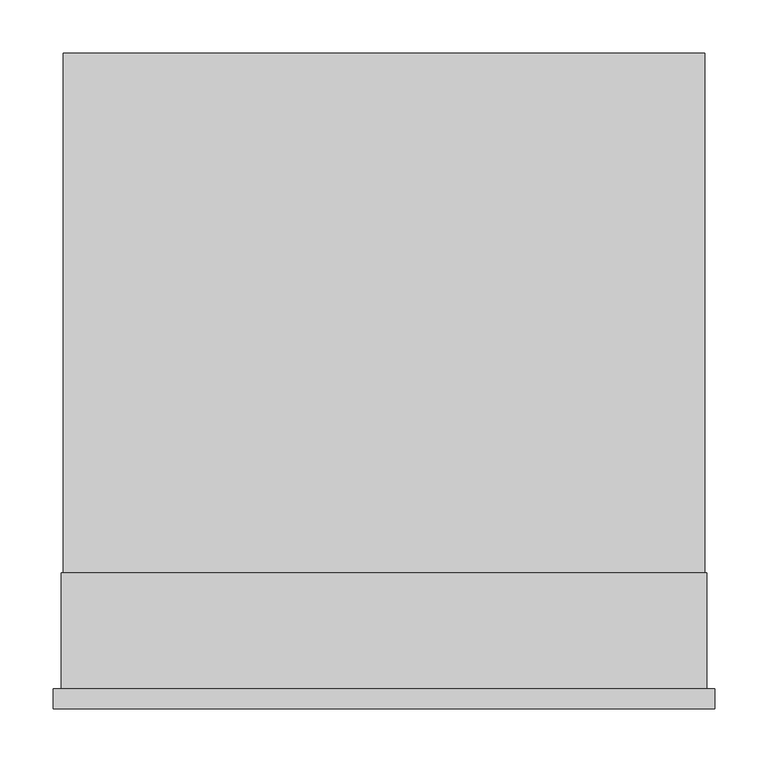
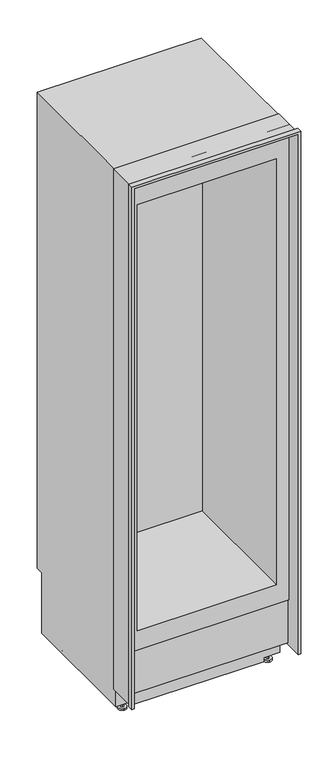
"""IFC4 building model written with IfcOpenShell, lengths in millimetres: proxy geometry, 11503640_USA_KWT2612SF : 36261215_USA_11503640_KWT2612SF."""

from ifc_helpers import new_model, si_unit, frame, origin, place, context, project, spatial, circle_curve, faceted_brep, source, transform, mapped, element, save
from ifc_brep_helpers import plane_surface, cylinder_surface, advanced_brep


def specialty_equipment_23673d5d(model_context):
    return source(origin(), model_context, "Body", "SolidModel", [
        advanced_brep(
        [(-267.5, 160.0, 0.0), (-267.5, 130.0, 0.0), (-267.5, 160.0, 7.0), (-267.5, 130.0, 7.0), (-267.5, 149.7, 7.0), (-267.5, 140.3, 7.0), (-267.5, 149.7, 28.0), (-267.5, 140.3, 28.0)],
        [
            (0, 1, circle_curve(frame((-267.5, 145.0, 0.0), z_axis=(0.0, 0.0, -1.0), x_axis=(1.0, 0.0, 0.0)), 15.0)),
            (1, 0, circle_curve(frame((-267.5, 145.0, 0.0), z_axis=(0.0, 0.0, -1.0), x_axis=(1.0, 0.0, 0.0)), 15.0)),
            (2, 3, circle_curve(frame((-267.5, 145.0, 7.0), z_axis=(0.0, 0.0, 1.0), x_axis=(1.0, 0.0, 0.0)), 15.0)),
            (3, 2, circle_curve(frame((-267.5, 145.0, 7.0), z_axis=(0.0, 0.0, 1.0), x_axis=(1.0, 0.0, 0.0)), 15.0)),
            (4, 5, circle_curve(frame((-267.5, 145.0, 7.0), z_axis=(0.0, 0.0, -1.0), x_axis=(0.0, -1.0, 0.0)), 4.7)),
            (5, 4, circle_curve(frame((-267.5, 145.0, 7.0), z_axis=(0.0, 0.0, -1.0), x_axis=(0.0, -1.0, 0.0)), 4.7)),
            (0, 2),
            (3, 1),
            (6, 7, circle_curve(frame((-267.5, 145.0, 28.0), z_axis=(0.0, 0.0, 1.0), x_axis=(0.0, -1.0, 0.0)), 4.7)),
            (7, 6, circle_curve(frame((-267.5, 145.0, 28.0), z_axis=(0.0, 0.0, 1.0), x_axis=(0.0, -1.0, 0.0)), 4.7)),
            (7, 5),
            (4, 6),
        ],
        [
            plane_surface(frame((-252.5, 145.0, 0.0), z_axis=(0.0, 0.0, -1.0), x_axis=(0.0, -1.0, 0.0))),
            plane_surface(frame((-252.5, 145.0, 7.0), z_axis=(0.0, 0.0, 1.0), x_axis=(0.0, 1.0, 0.0))),
            cylinder_surface(frame((-267.5, 145.0, 7.0), z_axis=(0.0, 0.0, -1.0), x_axis=(1.0, 0.0, 0.0)), 15.0),
            plane_surface(frame((-267.5, 140.3, 28.0), z_axis=(0.0, 0.0, 1.0), x_axis=(1.0, 0.0, 0.0))),
            cylinder_surface(frame((-267.5, 145.0, 28.0), z_axis=(0.0, 0.0, -1.0), x_axis=(0.0, -1.0, 0.0)), 4.7),
        ],
        [
            (0, [[1, 2]]),
            (1, [[3, 4], [5, 6]]),
            (2, [[-1, 7, -4, 8]]),
            (2, [[-2, -8, -3, -7]]),
            (3, [[9, 10]]),
            (4, [[-10, 11, -5, 12]]),
            (4, [[-9, -12, -6, -11]]),
        ],
    ),
        advanced_brep(
        [(267.5, 160.0, 0.0), (267.5, 130.0, 0.0), (267.5, 160.0, 7.0), (267.5, 130.0, 7.0), (267.5, 149.7, 7.0), (267.5, 140.3, 7.0), (267.5, 149.7, 28.0), (267.5, 140.3, 28.0)],
        [
            (0, 1, circle_curve(frame((267.5, 145.0, 0.0), z_axis=(0.0, 0.0, -1.0), x_axis=(1.0, 0.0, 0.0)), 15.0)),
            (1, 0, circle_curve(frame((267.5, 145.0, 0.0), z_axis=(0.0, 0.0, -1.0), x_axis=(1.0, 0.0, 0.0)), 15.0)),
            (2, 3, circle_curve(frame((267.5, 145.0, 7.0), z_axis=(0.0, 0.0, 1.0), x_axis=(1.0, 0.0, 0.0)), 15.0)),
            (3, 2, circle_curve(frame((267.5, 145.0, 7.0), z_axis=(0.0, 0.0, 1.0), x_axis=(1.0, 0.0, 0.0)), 15.0)),
            (4, 5, circle_curve(frame((267.5, 145.0, 7.0), z_axis=(0.0, 0.0, -1.0), x_axis=(0.0, -1.0, 0.0)), 4.7)),
            (5, 4, circle_curve(frame((267.5, 145.0, 7.0), z_axis=(0.0, 0.0, -1.0), x_axis=(0.0, -1.0, 0.0)), 4.7)),
            (0, 2),
            (3, 1),
            (6, 7, circle_curve(frame((267.5, 145.0, 28.0), z_axis=(0.0, 0.0, 1.0), x_axis=(0.0, -1.0, 0.0)), 4.7)),
            (7, 6, circle_curve(frame((267.5, 145.0, 28.0), z_axis=(0.0, 0.0, 1.0), x_axis=(0.0, -1.0, 0.0)), 4.7)),
            (7, 5),
            (4, 6),
        ],
        [
            plane_surface(frame((-252.5, 145.0, 0.0), z_axis=(0.0, 0.0, -1.0), x_axis=(0.0, -1.0, 0.0))),
            plane_surface(frame((-252.5, 145.0, 7.0), z_axis=(0.0, 0.0, 1.0), x_axis=(0.0, 1.0, 0.0))),
            cylinder_surface(frame((267.5, 145.0, 7.0), z_axis=(0.0, 0.0, -1.0), x_axis=(1.0, 0.0, 0.0)), 15.0),
            plane_surface(frame((-267.5, 140.3, 28.0), z_axis=(0.0, 0.0, 1.0), x_axis=(1.0, 0.0, 0.0))),
            cylinder_surface(frame((267.5, 145.0, 28.0), z_axis=(0.0, 0.0, -1.0), x_axis=(0.0, -1.0, 0.0)), 4.7),
        ],
        [
            (0, [[1, 2]]),
            (1, [[3, 4], [5, 6]]),
            (2, [[-1, 7, -4, 8]]),
            (2, [[-2, -8, -3, -7]]),
            (3, [[9, 10]]),
            (4, [[-10, 11, -5, 12]]),
            (4, [[-9, -12, -6, -11]]),
        ],
    ),
        advanced_brep(
        [(301.5, 68.0, 2114.0), (301.5, 68.0, 267.0), (301.5, 75.0, 267.0), (301.5, 75.0, 97.0), (301.5, 125.0, 97.0), (301.5, 125.0, 28.0), (301.5, 598.0, 28.0), (301.5, 598.0, 263.0), (301.5, 625.0, 263.0), (301.5, 625.0, 2114.0), (-301.5, 68.0, 2114.0), (-301.5, 625.0, 2114.0), (-301.5, 625.0, 263.0), (-301.5, 598.0, 263.0), (-301.5, 598.0, 28.0), (-301.5, 125.0, 28.0), (-301.5, 125.0, 97.0), (-301.5, 75.0, 97.0), (-301.5, 75.0, 267.0), (-301.5, 68.0, 267.0), (241.5, 598.0, 28.0), (241.5, 598.0, 14.0), (-241.5, 598.0, 14.0), (-241.5, 598.0, 28.0), (241.5, 125.0, 14.0), (-241.5, 125.0, 14.0), (-241.5, 125.0, 28.0), (241.5, 125.0, 28.0), (255.5, 68.0, 1998.0), (255.5, 68.0, 343.0), (-255.5, 68.0, 343.0), (-255.5, 68.0, 1998.0), (255.5, 540.0, 1998.0), (-255.5, 540.0, 1998.0), (-255.5, 540.0, 343.0), (255.5, 540.0, 343.0), (-260.0, 223.8193473, 28.0), (-279.0, 223.8193473, 28.0), (-279.0, 174.1806527, 28.0), (-260.0, 174.1806527, 28.0), (-279.5, 546.8193473, 28.0), (-279.5, 497.1806527, 28.0), (-263.5, 497.1806527, 28.0), (-263.5, 546.8193473, 28.0), (279.0, 174.1806527, 28.0), (279.0, 223.8193473, 28.0), (260.0, 223.8193473, 28.0), (260.0, 174.1806527, 28.0), (263.5, 546.8193473, 28.0), (263.5, 497.1806527, 28.0), (279.5, 497.1806527, 28.0), (279.5, 546.8193473, 28.0), (-260.0, 224.0, 25.0), (-260.0, 174.0, 25.0), (-279.0, 174.0, 25.0), (-279.0, 224.0, 25.0), (-260.0, 199.0, 25.0), (-279.0, 199.0, 25.0), (279.0, 199.0, 25.0), (279.0, 174.0, 25.0), (279.0, 224.0, 25.0), (260.0, 224.0, 25.0), (260.0, 174.0, 25.0), (260.0, 199.0, 25.0), (-279.5, 547.0, 25.0), (-279.5, 497.0, 25.0), (-279.5, 522.0, 25.0), (-263.5, 547.0, 25.0), (-263.5, 497.0, 25.0), (-263.5, 522.0, 25.0), (263.5, 547.0, 25.0), (263.5, 497.0, 25.0), (263.5, 522.0, 25.0), (279.5, 547.0, 25.0), (279.5, 497.0, 25.0), (279.5, 522.0, 25.0)],
        [
            (0, 1),
            (1, 2),
            (2, 3),
            (3, 4),
            (4, 5),
            (5, 6),
            (6, 7),
            (7, 8),
            (8, 9),
            (9, 0),
            (10, 11),
            (11, 12),
            (12, 13),
            (13, 14),
            (14, 15),
            (15, 16),
            (16, 17),
            (17, 18),
            (18, 19),
            (19, 10),
            (9, 11),
            (10, 0),
            (8, 12),
            (7, 13),
            (6, 20),
            (20, 21),
            (21, 22),
            (22, 23),
            (23, 14),
            (21, 24),
            (24, 25),
            (25, 22),
            (4, 16),
            (15, 26),
            (26, 25),
            (24, 27),
            (27, 5),
            (3, 17),
            (2, 18),
            (1, 19),
            (28, 29),
            (29, 30),
            (30, 31),
            (31, 28),
            (32, 33),
            (33, 34),
            (34, 35),
            (35, 32),
            (35, 29),
            (28, 32),
            (34, 30),
            (33, 31),
            (23, 26),
            (36, 37),
            (37, 38),
            (38, 39),
            (39, 36),
            (40, 41),
            (41, 42),
            (42, 43),
            (43, 40),
            (27, 20),
            (44, 45),
            (45, 46),
            (46, 47),
            (47, 44),
            (48, 49),
            (49, 50),
            (50, 51),
            (51, 48),
            (52, 53, circle_curve(frame((-260.0, 199.0, 25.0), z_axis=(-1.0, 0.0, 0.0), x_axis=(0.0, -1.0, 0.0)), 25.0)),
            (53, 54),
            (54, 55, circle_curve(frame((-279.0, 199.0, 25.0), z_axis=(1.0, 0.0, 0.0), x_axis=(0.0, -1.0, 0.0)), 25.0)),
            (55, 52),
            (53, 39, circle_curve(frame((-260.0, 199.0, 25.0), z_axis=(-1.0, 0.0, 0.0), x_axis=(0.0, -1.0, 0.0)), 25.0)),
            (38, 54, circle_curve(frame((-279.0, 199.0, 25.0), z_axis=(1.0, 0.0, 0.0), x_axis=(0.0, -1.0, 0.0)), 25.0)),
            (55, 37, circle_curve(frame((-279.0, 199.0, 25.0), z_axis=(1.0, 0.0, 0.0), x_axis=(0.0, -1.0, 0.0)), 25.0)),
            (36, 52, circle_curve(frame((-260.0, 199.0, 25.0), z_axis=(-1.0, 0.0, 0.0), x_axis=(0.0, -1.0, 0.0)), 25.0)),
            (52, 56),
            (56, 53),
            (54, 57),
            (57, 55),
            (58, 59),
            (59, 60, circle_curve(frame((279.0, 199.0, 25.0), z_axis=(1.0, 0.0, 0.0), x_axis=(0.0, -1.0, 0.0)), 25.0)),
            (60, 58),
            (60, 45, circle_curve(frame((279.0, 199.0, 25.0), z_axis=(1.0, 0.0, 0.0), x_axis=(0.0, -1.0, 0.0)), 25.0)),
            (44, 59, circle_curve(frame((279.0, 199.0, 25.0), z_axis=(1.0, 0.0, 0.0), x_axis=(0.0, -1.0, 0.0)), 25.0)),
            (61, 62, circle_curve(frame((260.0, 199.0, 25.0), z_axis=(-1.0, 0.0, 0.0), x_axis=(0.0, -1.0, 0.0)), 25.0)),
            (62, 63),
            (63, 61),
            (62, 47, circle_curve(frame((260.0, 199.0, 25.0), z_axis=(-1.0, 0.0, 0.0), x_axis=(0.0, -1.0, 0.0)), 25.0)),
            (46, 61, circle_curve(frame((260.0, 199.0, 25.0), z_axis=(-1.0, 0.0, 0.0), x_axis=(0.0, -1.0, 0.0)), 25.0)),
            (64, 65, circle_curve(frame((-279.5, 522.0, 25.0), z_axis=(-1.0, 0.0, 0.0), x_axis=(0.0, -1.0, 0.0)), 25.0)),
            (65, 66),
            (66, 64),
            (65, 41, circle_curve(frame((-279.5, 522.0, 25.0), z_axis=(-1.0, 0.0, 0.0), x_axis=(0.0, -1.0, 0.0)), 25.0)),
            (40, 64, circle_curve(frame((-279.5, 522.0, 25.0), z_axis=(-1.0, 0.0, 0.0), x_axis=(0.0, -1.0, 0.0)), 25.0)),
            (64, 67),
            (67, 68, circle_curve(frame((-263.5, 522.0, 25.0), z_axis=(-1.0, 0.0, 0.0), x_axis=(0.0, -1.0, 0.0)), 25.0)),
            (68, 65),
            (43, 67, circle_curve(frame((-263.5, 522.0, 25.0), z_axis=(-1.0, 0.0, 0.0), x_axis=(0.0, -1.0, 0.0)), 25.0)),
            (68, 42, circle_curve(frame((-263.5, 522.0, 25.0), z_axis=(-1.0, 0.0, 0.0), x_axis=(0.0, -1.0, 0.0)), 25.0)),
            (67, 69),
            (69, 68),
            (70, 71, circle_curve(frame((263.5, 522.0, 25.0), z_axis=(-1.0, 0.0, 0.0), x_axis=(0.0, -1.0, 0.0)), 25.0)),
            (71, 72),
            (72, 70),
            (71, 49, circle_curve(frame((263.5, 522.0, 25.0), z_axis=(-1.0, 0.0, 0.0), x_axis=(0.0, -1.0, 0.0)), 25.0)),
            (48, 70, circle_curve(frame((263.5, 522.0, 25.0), z_axis=(-1.0, 0.0, 0.0), x_axis=(0.0, -1.0, 0.0)), 25.0)),
            (70, 73),
            (73, 74, circle_curve(frame((279.5, 522.0, 25.0), z_axis=(-1.0, 0.0, 0.0), x_axis=(0.0, -1.0, 0.0)), 25.0)),
            (74, 71),
            (51, 73, circle_curve(frame((279.5, 522.0, 25.0), z_axis=(-1.0, 0.0, 0.0), x_axis=(0.0, -1.0, 0.0)), 25.0)),
            (74, 50, circle_curve(frame((279.5, 522.0, 25.0), z_axis=(-1.0, 0.0, 0.0), x_axis=(0.0, -1.0, 0.0)), 25.0)),
            (73, 75),
            (75, 74),
            (59, 62),
            (61, 60),
        ],
        [
            plane_surface(frame((301.5, 625.0, 2114.0), z_axis=(1.0, 0.0, 0.0), x_axis=(0.0, -1.0, 0.0))),
            plane_surface(frame((-301.5, 625.0, 2114.0), z_axis=(-1.0, 0.0, 0.0), x_axis=(0.0, 1.0, 0.0))),
            plane_surface(frame((-301.5, 68.0, 2114.0), z_axis=(0.0, 0.0, 1.0), x_axis=(1.0, 0.0, 0.0))),
            plane_surface(frame((-301.5, 625.0, 2114.0), z_axis=(0.0, 1.0, 0.0), x_axis=(1.0, 0.0, 0.0))),
            plane_surface(frame((-301.5, 625.0, 263.0), z_axis=(0.0, 0.0, -1.0), x_axis=(1.0, 0.0, 0.0))),
            plane_surface(frame((-301.5, 598.0, 263.0), z_axis=(0.0, 1.0, 0.0), x_axis=(1.0, 0.0, 0.0))),
            plane_surface(frame((-301.5, 598.0, 14.0), z_axis=(0.0, 0.0, -1.0), x_axis=(1.0, 0.0, 0.0))),
            plane_surface(frame((-301.5, 125.0, 14.0), z_axis=(0.0, -1.0, 0.0), x_axis=(1.0, 0.0, 0.0))),
            plane_surface(frame((-301.5, 125.0, 97.0), z_axis=(0.0, 0.0, -1.0), x_axis=(1.0, 0.0, 0.0))),
            plane_surface(frame((-301.5, 75.0, 97.0), z_axis=(0.0, -1.0, 0.0), x_axis=(1.0, 0.0, 0.0))),
            plane_surface(frame((-301.5, 75.0, 267.0), z_axis=(0.0, 0.0, -1.0), x_axis=(1.0, 0.0, 0.0))),
            plane_surface(frame((-301.5, 68.0, 267.0), z_axis=(0.0, -1.0, 0.0), x_axis=(1.0, 0.0, 0.0))),
            plane_surface(frame((255.5, 540.0, 1998.0), z_axis=(0.0, -1.0, 0.0), x_axis=(0.0, 0.0, -1.0))),
            plane_surface(frame((255.5, 540.0, 1998.0), z_axis=(-1.0, 0.0, 0.0), x_axis=(0.0, -1.0, 0.0))),
            plane_surface(frame((255.5, 540.0, 343.0), z_axis=(0.0, 0.0, 1.0), x_axis=(0.0, -1.0, 0.0))),
            plane_surface(frame((-255.5, 540.0, 343.0), z_axis=(1.0, 0.0, 0.0), x_axis=(0.0, -1.0, 0.0))),
            plane_surface(frame((-255.5, 540.0, 1998.0), z_axis=(0.0, 0.0, -1.0), x_axis=(0.0, -1.0, 0.0))),
            plane_surface(frame((-301.5, 625.0, 28.0), z_axis=(0.0, 0.0, -1.0), x_axis=(-1.0, 0.0, 0.0))),
            plane_surface(frame((-241.5, 125.0, 28.0), z_axis=(-1.0, 0.0, 0.0), x_axis=(0.0, 0.0, -1.0))),
            plane_surface(frame((241.5, 625.0, 28.0), z_axis=(1.0, 0.0, 0.0), x_axis=(0.0, 0.0, -1.0))),
            cylinder_surface(frame((-394.1988927, 199.0, 25.0), z_axis=(1.0, 0.0, 0.0), x_axis=(0.0, -1.0, 0.0)), 25.0),
            plane_surface(frame((-260.0, 199.0, 25.0), z_axis=(1.0, 0.0, 0.0), x_axis=(0.0, -1.0, 0.0))),
            plane_surface(frame((-279.0, 199.0, 25.0), z_axis=(-1.0, 0.0, 0.0), x_axis=(0.0, -1.0, 0.0))),
            plane_surface(frame((279.0, 199.0, 25.0), z_axis=(1.0, 0.0, 0.0), x_axis=(0.0, -1.0, 0.0))),
            plane_surface(frame((260.0, 199.0, 25.0), z_axis=(-1.0, 0.0, 0.0), x_axis=(0.0, -1.0, 0.0))),
            plane_surface(frame((-279.5, 522.0, 25.0), z_axis=(-1.0, 0.0, 0.0), x_axis=(0.0, -1.0, 0.0))),
            cylinder_surface(frame((-394.1988927, 522.0, 25.0), z_axis=(1.0, 0.0, 0.0), x_axis=(0.0, -1.0, 0.0)), 25.0),
            plane_surface(frame((-263.5, 522.0, 25.0), z_axis=(1.0, 0.0, 0.0), x_axis=(0.0, -1.0, 0.0))),
            plane_surface(frame((263.5, 522.0, 25.0), z_axis=(-1.0, 0.0, 0.0), x_axis=(0.0, -1.0, 0.0))),
            plane_surface(frame((279.5, 522.0, 25.0), z_axis=(1.0, 0.0, 0.0), x_axis=(0.0, -1.0, 0.0))),
        ],
        [
            (0, [[1, 2, 3, 4, 5, 6, 7, 8, 9, 10]]),
            (1, [[11, 12, 13, 14, 15, 16, 17, 18, 19, 20]]),
            (2, [[-10, 21, -11, 22]]),
            (3, [[-9, 23, -12, -21]]),
            (4, [[-8, 24, -13, -23]]),
            (5, [[-24, -7, 25, 26, 27, 28, 29, -14]]),
            (6, [[-27, 30, 31, 32]]),
            (7, [[33, -16, 34, 35, -31, 36, 37, -5]]),
            (8, [[-4, 38, -17, -33]]),
            (9, [[-3, 39, -18, -38]]),
            (10, [[-2, 40, -19, -39]]),
            (11, [[-1, -22, -20, -40], [41, 42, 43, 44]]),
            (12, [[45, 46, 47, 48]]),
            (13, [[-48, 49, -41, 50]]),
            (14, [[-47, 51, -42, -49]]),
            (15, [[-46, 52, -43, -51]]),
            (16, [[-45, -50, -44, -52]]),
            (17, [[53, -34, -15, -29], [54, 55, 56, 57], [58, 59, 60, 61]]),
            (17, [[62, -25, -6, -37], [63, 64, 65, 66], [67, 68, 69, 70]]),
            (18, [[-53, -28, -32, -35]]),
            (19, [[-62, -36, -30, -26]]),
            (20, [[71, 72, 73, 74]]),
            (20, [[-72, 75, -56, 76]]),
            (20, [[-74, 77, -54, 78]]),
            (21, [[-71, 79, 80]]),
            (21, [[-80, -79, -78, -57, -75]]),
            (22, [[-73, 81, 82]]),
            (22, [[-81, -76, -55, -77, -82]]),
            (23, [[83, 84, 85]]),
            (23, [[-83, -85, 86, -63, 87]]),
            (24, [[88, 89, 90]]),
            (24, [[-89, 91, -65, 92, -90]]),
            (25, [[93, 94, 95]]),
            (25, [[-94, 96, -58, 97, -95]]),
            (26, [[-93, 98, 99, 100]]),
            (26, [[-98, -97, -61, 101]]),
            (26, [[-100, 102, -59, -96]]),
            (27, [[-99, 103, 104]]),
            (27, [[-104, -103, -101, -60, -102]]),
            (28, [[105, 106, 107]]),
            (28, [[-106, 108, -67, 109, -107]]),
            (26, [[-105, 110, 111, 112]]),
            (26, [[-110, -109, -70, 113]]),
            (26, [[-112, 114, -68, -108]]),
            (29, [[-111, 115, 116]]),
            (29, [[-116, -115, -113, -69, -114]]),
            (20, [[-84, 117, -88, 118]]),
            (20, [[-117, -87, -66, -91]]),
            (20, [[-118, -92, -64, -86]]),
        ],
    ),
        faceted_brep([(-311.0, 27.0, 91.0), (-311.0, 27.0, 2123.0), (311.0, 27.0, 2123.0), (311.0, 27.0, 91.0), (303.2, 27.0, 91.0), (303.2, 27.0, 2115.0), (-303.2, 27.0, 2115.0), (-303.2, 27.0, 91.0), (301.5, 8.0, 2114.0), (301.5, 8.0, 91.0), (311.0, 8.0, 91.0), (311.0, 8.0, 2123.0), (-311.0, 8.0, 2123.0), (-311.0, 8.0, 91.0), (-301.5, 8.0, 91.0), (-301.5, 8.0, 2114.0), (301.5, 136.0, 2114.0), (301.5, 136.0, 91.0), (-301.5, 136.0, 91.0), (-301.5, 136.0, 2114.0), (-303.2, 136.0, 91.0), (303.2, 136.0, 91.0), (-303.2, 136.0, 2115.0), (303.2, 136.0, 2115.0)], [[[0, 1, 2, 3, 4, 5, 6, 7]], [[8, 9, 10, 11, 12, 13, 14, 15]], [[9, 8, 16, 17]], [[15, 14, 18, 19]], [[16, 8, 15, 19]], [[18, 14, 13, 0, 7, 20]], [[1, 0, 13, 12]], [[2, 1, 12, 11]], [[3, 2, 11, 10]], [[10, 9, 17, 21, 4, 3]], [[16, 19, 18, 20, 22, 23, 21, 17]], [[22, 20, 7, 6]], [[23, 22, 6, 5]], [[21, 23, 5, 4]]]),
    ])


if __name__ == "__main__":
    model = new_model("IFC4")
    model_context = context("Model", 3, world=origin())
    ifc_project = project(units=[si_unit("LENGTHUNIT", "METRE", prefix="MILLI")], contexts=[model_context])
    site = spatial("IfcSite", under=ifc_project)
    building = spatial("IfcBuilding", under=site)
    placement = place(None, origin())
    specialty_equipment_shape = specialty_equipment_23673d5d(model_context)
    element("IfcBuildingElementProxy", 1, Name="11503640_USA_KWT2612SF : 36261215_USA_11503640_KWT2612SF", ObjectType="11503640_USA_KWT2612SF : 36261215_USA_11503640_KWT2612SF", at=placement, inside=building, context=model_context, shape_type="MappedRepresentation", body=[
        mapped(specialty_equipment_shape, transform((0.0, 0.0, 0.0), x_axis=(1.0, 0.0, 0.0), y_axis=(0.0, 1.0, 0.0), z_axis=(0.0, 0.0, 1.0))),
    ])
    save(model, "model.ifc")
